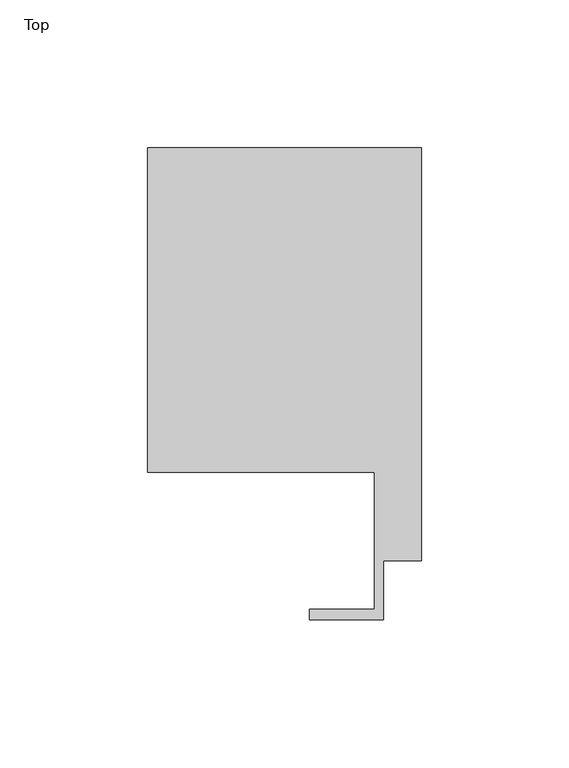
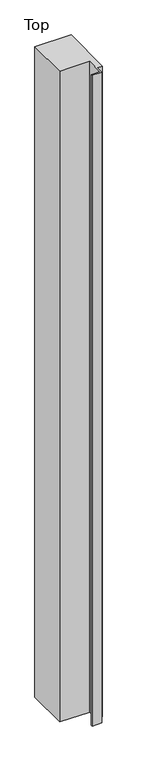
"""IFC4 building model written with IfcOpenShell, lengths in millimetres: member geometry, 長方形マリオン : Top."""

from ifc_helpers import new_model, si_unit, frame, origin, place, context, project, spatial, polyline, outline, extrude, source, transform, mapped, element, save


def top_d1448e6b(model_context):
    return source(origin(), model_context, "Body", "SweptSolid", [
        extrude(outline(polyline([(-93.0, 136.0040267), (0.0, 136.0040267), (0.0, -3.9960658), (-13.0, -3.9960658), (-13.0, -23.9960658), (-38.0, -23.9960658), (-38.0, -20.4960658), (-16.0, -20.4960658), (-16.0, 26.0039342), (-93.0, 26.0039342), (-93.0, 136.0040267)])), frame((0.0, 0.0, -1769.7668973), z_axis=(0.0, 0.0, 1.0), x_axis=(1.0, 0.0, 0.0)), (0.0, 0.0, 1.0), 1769.7668973),
    ])


if __name__ == "__main__":
    model = new_model("IFC4")
    model_context = context("Model", 3, world=origin())
    ifc_project = project(units=[si_unit("LENGTHUNIT", "METRE", prefix="MILLI")], contexts=[model_context])
    site = spatial("IfcSite", under=ifc_project)
    building = spatial("IfcBuilding", under=site)
    placement = place(None, origin())
    top_shape = top_d1448e6b(model_context)
    element("IfcMember", 1, ObjectType="長方形マリオン : Top", at=placement, inside=building, context=model_context, shape_type="MappedRepresentation", body=[
        mapped(top_shape, transform((0.0, 0.0, 0.0), x_axis=(1.0, 0.0, 0.0), y_axis=(0.0, 1.0, 0.0), z_axis=(0.0, 0.0, 1.0))),
    ])
    save(model, "model.ifc")
